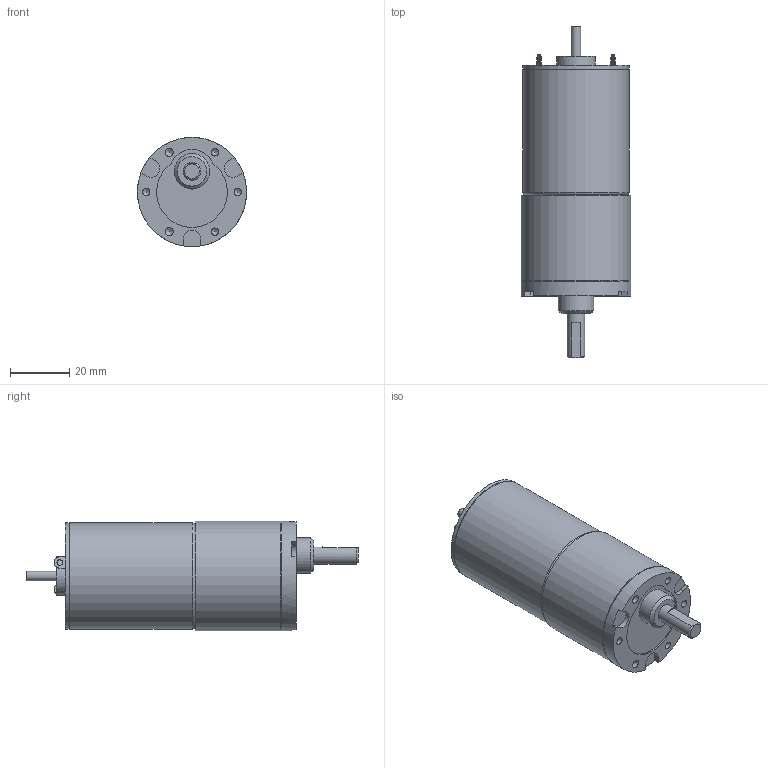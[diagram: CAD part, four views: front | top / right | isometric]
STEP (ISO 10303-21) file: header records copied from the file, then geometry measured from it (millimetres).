
FILE_DESCRIPTION((''),'2;1');
FILE_NAME('C:\Documents and Settings\SSEGAWA\デスクトップ\TP-3644L-KS-6.STP','2013-07-26T19:06:27',('SSEGAWA'),(''),'Autodesk Inventor 2010','Autodesk Inventor 2010','');
FILE_SCHEMA(('CONFIG_CONTROL_DESIGN'));
Length unit declared in the file: millimetre
Products named in the file (1): tp_3644l_ks_6_Shrinkwrap_1
Bounding box: 37 x 112.5 x 37 mm (x, y, z)
Volume: 82636.8 mm3; surface area: 12699.5 mm2
Topology: 5 solids, 5 shells, 80 faces, 181 edges, 121 vertices
Faces by surface type: plane 37, bspline 20, cylinder 19, cone 2, torus 2
Full cylindrical faces by diameter (mm): 3 x1, 3.175 x1, 3.5 x1, 6 x1, 12 x1, 13 x1, 35.6 x1, 36 x2, 36.6 x1, 37 x2
Entity records: 2254 total; most frequent: CARTESIAN_POINT 642, DIRECTION 311, ORIENTED_EDGE 242, AXIS2_PLACEMENT_3D 131, EDGE_LOOP 129, EDGE_CURVE 121, VERTEX_POINT 96, STYLED_ITEM 85
